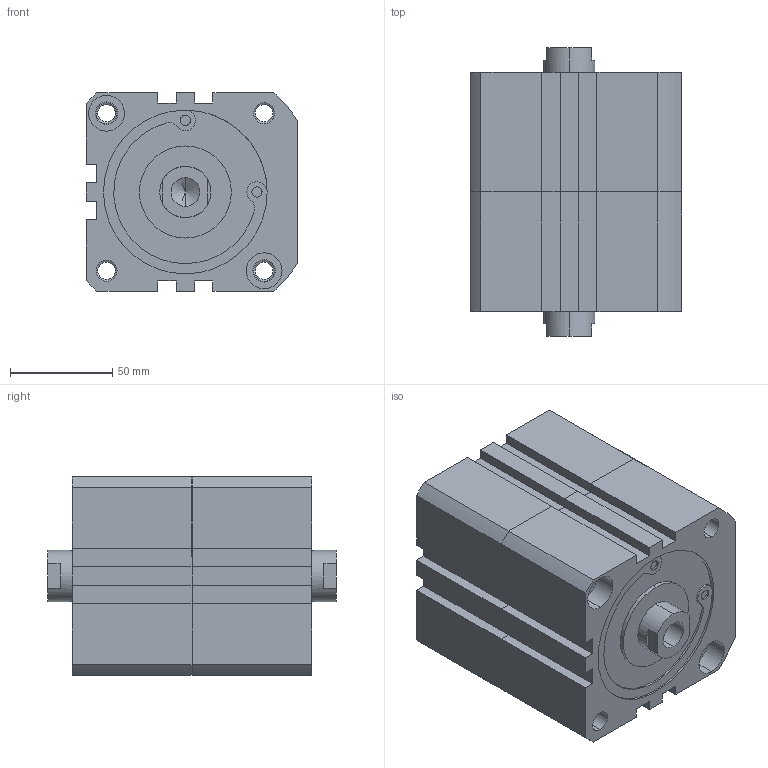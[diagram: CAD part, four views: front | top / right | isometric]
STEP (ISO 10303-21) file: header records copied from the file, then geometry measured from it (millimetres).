
FILE_DESCRIPTION (( 'STEP AP203' ), '1' );
FILE_NAME ('XCD7-80-10-10(L).STEP', '2016-08-05T01:40:58', ( '' ), ( '' ), 'SwSTEP 2.0', 'SolidWorks 2014', '' );
FILE_SCHEMA (( 'CONFIG_CONTROL_DESIGN' ));
Length unit declared in the file: millimetre
Products named in the file (2): XCD7(L)-80-10; XCD7-80-10-10(L)
Assembly tree (2 placements, depth 2):
  XCD7-80-10-10(L)
    XCD7(L)-80-10  x2
Bounding box: 103.5 x 141 x 97 mm (x, y, z)
Volume: 1046066.8 mm3; surface area: 115124.7 mm2
Topology: 2 solids, 2 shells, 222 faces, 550 edges, 348 vertices
Faces by surface type: cylinder 94, plane 92, cone 36
Entity records: 3510 total; most frequent: DIRECTION 612, CARTESIAN_POINT 559, ORIENTED_EDGE 538, EDGE_CURVE 269, AXIS2_PLACEMENT_3D 227, VERTEX_POINT 174, VECTOR 158, LINE 158
